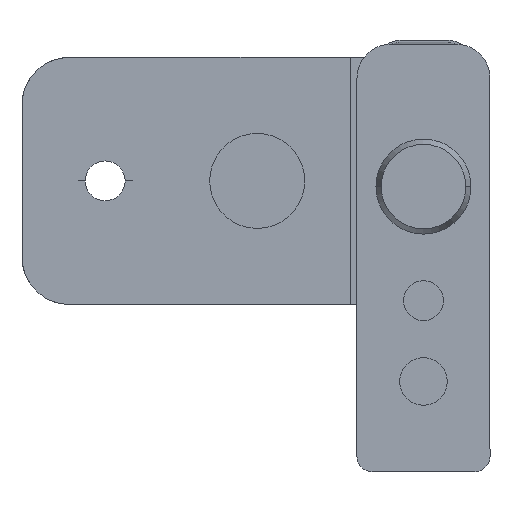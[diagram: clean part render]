
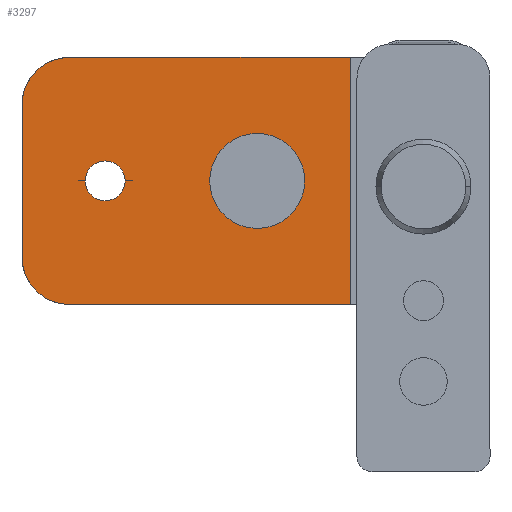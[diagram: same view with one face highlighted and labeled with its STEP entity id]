
A CAD part, front view. The second image highlights one B-rep face of the part: STEP entity #3297.
In plain terms, the highlighted planar face has unit normal (0, -1, 0).
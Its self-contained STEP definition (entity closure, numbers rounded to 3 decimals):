
#24 = VERTEX_POINT ( 'NONE', #1028 ) ;
#27 = CARTESIAN_POINT ( 'NONE',  ( -7.7, 347., 13.6 ) ) ;
#194 = CARTESIAN_POINT ( 'NONE',  ( -33.5, 347., 0.6 ) ) ;
#195 = DIRECTION ( 'NONE',  ( 0., 1., 0. ) ) ;
#196 = DIRECTION ( 'NONE',  ( -1., 0., 0. ) ) ;
#285 = CARTESIAN_POINT ( 'NONE',  ( -42.25, 347., 13.6 ) ) ;
#286 = DIRECTION ( 'NONE',  ( 0., 0., -1. ) ) ;
#561 = CARTESIAN_POINT ( 'NONE',  ( -37.25, 347., -12.4 ) ) ;
#569 = CARTESIAN_POINT ( 'NONE',  ( -37.25, 347., 13.6 ) ) ;
#574 = CARTESIAN_POINT ( 'NONE',  ( -42.25, 347., -7.4 ) ) ;
#588 = AXIS2_PLACEMENT_3D ( 'NONE', #2729, #2730, #2731 ) ;
#590 = AXIS2_PLACEMENT_3D ( 'NONE', #2747, #2748, #2749 ) ;
#591 = AXIS2_PLACEMENT_3D ( 'NONE', #2754, #2755, #2756 ) ;
#603 = AXIS2_PLACEMENT_3D ( 'NONE', #4662, #4663, #4664 ) ;
#771 = AXIS2_PLACEMENT_3D ( 'NONE', #194, #195, #196 ) ;
#1028 = CARTESIAN_POINT ( 'NONE',  ( -31.4, 347., 0.6 ) ) ;
#1529 = CARTESIAN_POINT ( 'NONE',  ( -42.25, 347., 8.6 ) ) ;
#1531 = CARTESIAN_POINT ( 'NONE',  ( -7.7, 347., -12.4 ) ) ;
#1639 = VERTEX_POINT ( 'NONE', #1529 ) ;
#1641 = VERTEX_POINT ( 'NONE', #1531 ) ;
#1729 = VERTEX_POINT ( 'NONE', #3615 ) ;
#1827 = LINE ( 'NONE', #285, #1828 ) ;
#1828 = VECTOR ( 'NONE', #286, 1000. ) ;
#1860 = CIRCLE ( 'NONE', #588, 5. ) ;
#1868 = LINE ( 'NONE', #2741, #1869 ) ;
#1869 = VECTOR ( 'NONE', #2742, 1000. ) ;
#1874 = LINE ( 'NONE', #2750, #1876 ) ;
#1875 = CIRCLE ( 'NONE', #590, 2.1 ) ;
#1876 = VECTOR ( 'NONE', #2751, 1000. ) ;
#1877 = LINE ( 'NONE', #2752, #1878 ) ;
#1878 = VECTOR ( 'NONE', #2753, 1000. ) ;
#1880 = CIRCLE ( 'NONE', #591, 5. ) ;
#1941 = FACE_BOUND ( 'NONE', #3833, .T. ) ;
#1942 = FACE_OUTER_BOUND ( 'NONE', #3832, .T. ) ;
#2288 = CIRCLE ( 'NONE', #771, 2.1 ) ;
#2729 = CARTESIAN_POINT ( 'NONE',  ( -37.25, 347., -7.4 ) ) ;
#2730 = DIRECTION ( 'NONE',  ( 0., -1., 0. ) ) ;
#2731 = DIRECTION ( 'NONE',  ( -1., 0., 0. ) ) ;
#2741 = CARTESIAN_POINT ( 'NONE',  ( -42.25, 347., 13.6 ) ) ;
#2742 = DIRECTION ( 'NONE',  ( 1., 0., 0. ) ) ;
#2747 = CARTESIAN_POINT ( 'NONE',  ( -33.5, 347., 0.6 ) ) ;
#2748 = DIRECTION ( 'NONE',  ( 0., 1., 0. ) ) ;
#2749 = DIRECTION ( 'NONE',  ( -1., 0., 0. ) ) ;
#2750 = CARTESIAN_POINT ( 'NONE',  ( -42.25, 347., -12.4 ) ) ;
#2751 = DIRECTION ( 'NONE',  ( 1., 0., 0. ) ) ;
#2752 = CARTESIAN_POINT ( 'NONE',  ( -7.7, 347., 13.6 ) ) ;
#2753 = DIRECTION ( 'NONE',  ( 0., 0., -1. ) ) ;
#2754 = CARTESIAN_POINT ( 'NONE',  ( -37.25, 347., 8.6 ) ) ;
#2755 = DIRECTION ( 'NONE',  ( 0., -1., 0. ) ) ;
#2756 = DIRECTION ( 'NONE',  ( -1., 0., 0. ) ) ;
#2941 = ORIENTED_EDGE ( 'NONE', *, *, #3047, .T. ) ;
#2942 = ORIENTED_EDGE ( 'NONE', *, *, #3041, .F. ) ;
#2943 = ORIENTED_EDGE ( 'NONE', *, *, #3046, .F. ) ;
#2944 = ORIENTED_EDGE ( 'NONE', *, *, #3045, .T. ) ;
#2945 = ORIENTED_EDGE ( 'NONE', *, *, #3036, .T. ) ;
#2946 = ORIENTED_EDGE ( 'NONE', *, *, #3016, .T. ) ;
#2947 = ORIENTED_EDGE ( 'NONE', *, *, #4703, .T. ) ;
#2948 = ORIENTED_EDGE ( 'NONE', *, *, #3044, .T. ) ;
#3016 = EDGE_CURVE ( 'NONE', #1639, #4549, #1827, .T. ) ;
#3036 = EDGE_CURVE ( 'NONE', #4549, #4536, #1860, .T. ) ;
#3041 = EDGE_CURVE ( 'NONE', #4544, #4553, #1868, .T. ) ;
#3044 = EDGE_CURVE ( 'NONE', #1729, #24, #1875, .T. ) ;
#3045 = EDGE_CURVE ( 'NONE', #4536, #1641, #1874, .T. ) ;
#3046 = EDGE_CURVE ( 'NONE', #4553, #1641, #1877, .T. ) ;
#3047 = EDGE_CURVE ( 'NONE', #4544, #1639, #1880, .T. ) ;
#3297 = ADVANCED_FACE ( 'NONE', ( #1941, #1942 ), #4661, .F. ) ;
#3615 = CARTESIAN_POINT ( 'NONE',  ( -35.6, 347., 0.6 ) ) ;
#3832 = EDGE_LOOP ( 'NONE', ( #2946, #2945, #2944, #2943, #2942, #2941 ) ) ;
#3833 = EDGE_LOOP ( 'NONE', ( #2948, #2947 ) ) ;
#4536 = VERTEX_POINT ( 'NONE', #561 ) ;
#4544 = VERTEX_POINT ( 'NONE', #569 ) ;
#4549 = VERTEX_POINT ( 'NONE', #574 ) ;
#4553 = VERTEX_POINT ( 'NONE', #27 ) ;
#4661 = PLANE ( 'NONE',  #603 ) ;
#4662 = CARTESIAN_POINT ( 'NONE',  ( -42.25, 347., 13.6 ) ) ;
#4663 = DIRECTION ( 'NONE',  ( 0., 1., 0. ) ) ;
#4664 = DIRECTION ( 'NONE',  ( -1., 0., 0. ) ) ;
#4703 = EDGE_CURVE ( 'NONE', #24, #1729, #2288, .T. ) ;
